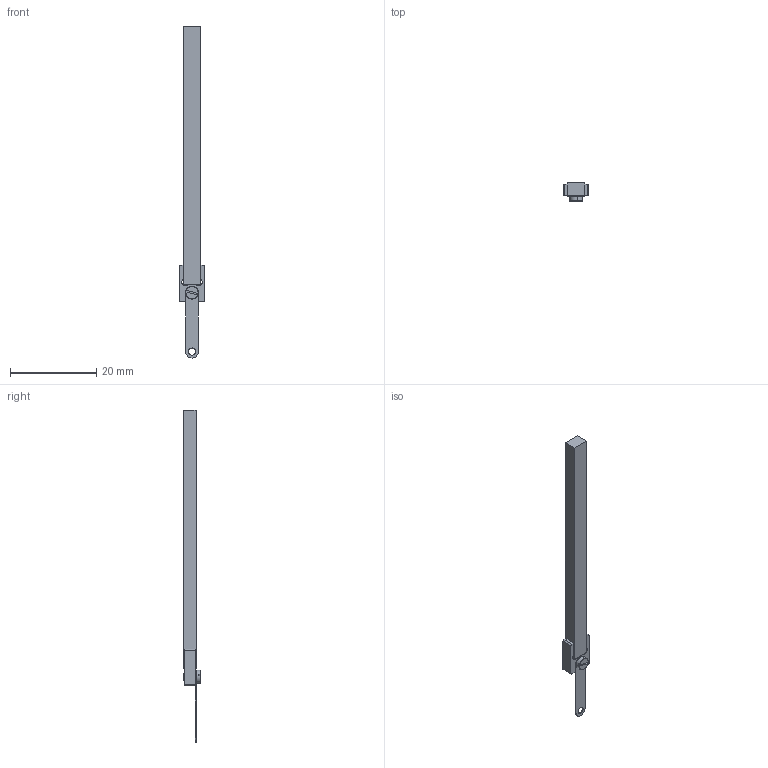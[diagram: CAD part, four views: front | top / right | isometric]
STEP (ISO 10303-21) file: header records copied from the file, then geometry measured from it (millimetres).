
FILE_DESCRIPTION (( 'STEP AP214' ), '1' );
FILE_NAME ('LT2020D_DriveRod_060D1D2-PiezoMotor.STEP', '2017-06-08T12:05:06', ( '' ), ( '' ), 'SwSTEP 2.0', 'SolidWorks 2016', '' );
FILE_SCHEMA (( 'AUTOMOTIVE_DESIGN' ));
Length unit declared in the file: millimetre
Products named in the file (2): LT2020D_DriveRod_060D1D2-PiezoMotor
Bounding box: 6 x 4.1 x 76.95 mm (x, y, z)
Volume: 820.2 mm3; surface area: 1171.2 mm2
Topology: 4 solids, 4 shells, 54 faces, 130 edges, 85 vertices
Faces by surface type: plane 27, cylinder 20, cone 7
Entity records: 1677 total; most frequent: DIRECTION 289, CARTESIAN_POINT 283, ORIENTED_EDGE 260, EDGE_CURVE 130, AXIS2_PLACEMENT_3D 107, VERTEX_POINT 85, LINE 75, VECTOR 75
